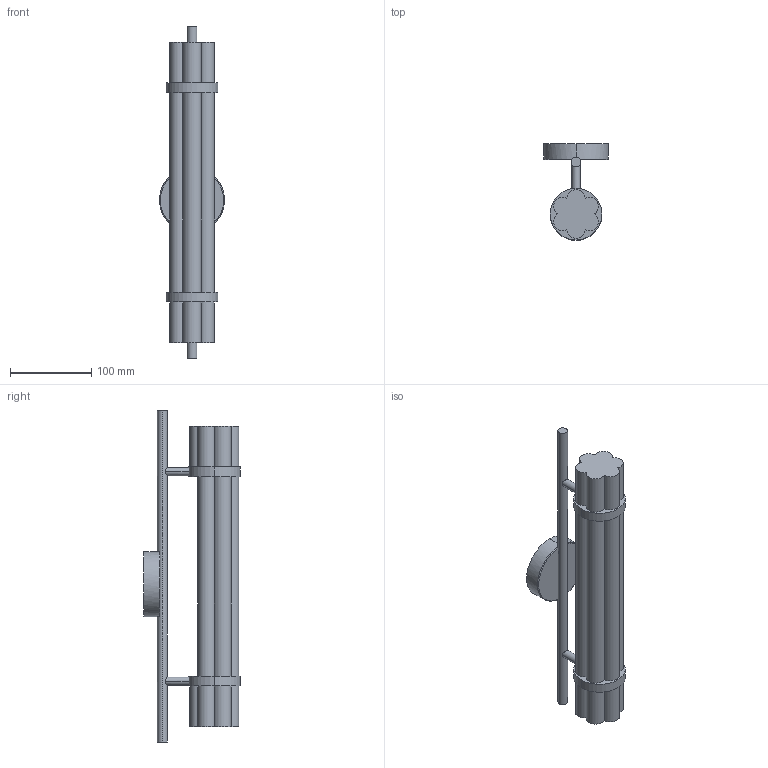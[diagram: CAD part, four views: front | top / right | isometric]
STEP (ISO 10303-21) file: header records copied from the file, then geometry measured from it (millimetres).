
FILE_DESCRIPTION (( 'STEP AP214' ), '1' );
FILE_NAME ('A1355.STEP', '2025-12-16T15:34:27', ( '' ), ( '' ), 'SwSTEP 2.0', 'SolidWorks 2023', '' );
FILE_SCHEMA (( 'AUTOMOTIVE_DESIGN' ));
Length unit declared in the file: millimetre
Products named in the file (1): A1355
Bounding box: 80 x 119 x 409 mm (x, y, z)
Surface area: 137156.3 mm2 (no closed solid volume)
Topology: 0 solids, 7 shells, 195 faces, 437 edges, 258 vertices
Faces by surface type: plane 158, cylinder 35, torus 2
Entity records: 5690 total; most frequent: CARTESIAN_POINT 2020, ORIENTED_EDGE 816, DIRECTION 560, EDGE_CURVE 437, B_SPLINE_CURVE_WITH_KNOTS 345, AXIS2_PLACEMENT_3D 272, VERTEX_POINT 258, EDGE_LOOP 198
